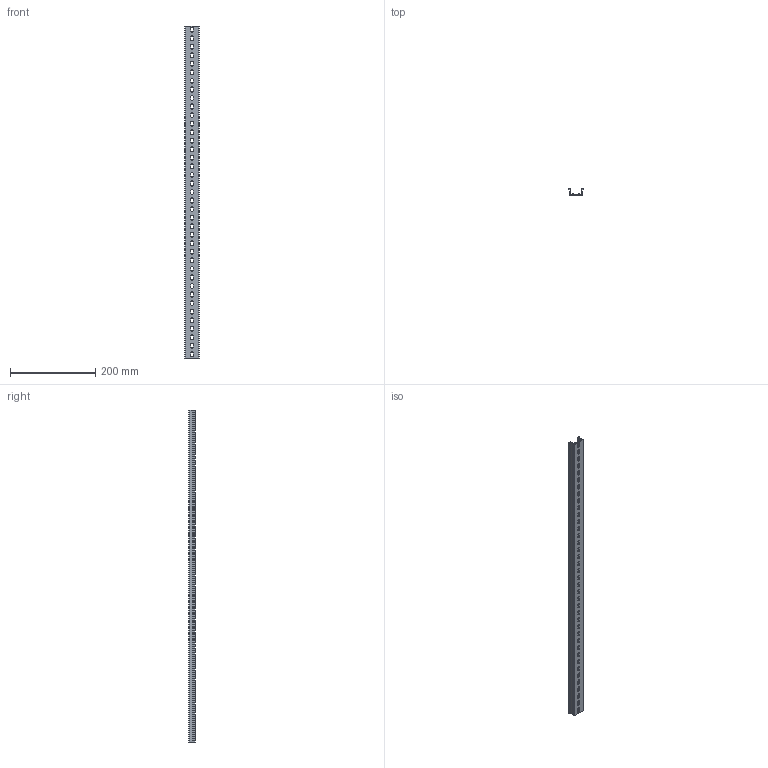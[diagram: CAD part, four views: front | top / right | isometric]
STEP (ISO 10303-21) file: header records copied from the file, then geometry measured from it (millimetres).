
FILE_DESCRIPTION(/* description */ (''),/* implementation_level */ '2;1');
FILE_NAME(/* name */ '22649-(TKB KD-39)HP 3D.stp',/* time_stamp */ '2024-12-05T14:22:36+09:00',/* author */ ('usercadg104'),/* organization */ (''),/* preprocessor_version */ 'ST-DEVELOPER v19.2',/* originating_system */ 'Autodesk Inventor 2023',/* authorisation */ '');
FILE_SCHEMA (('CONFIG_CONTROL_DESIGN'));
Length unit declared in the file: millimetre
Products named in the file (1): TKB KD-3(林)
Bounding box: 35 x 15 x 777 mm (x, y, z)
Volume: 90907.7 mm3; surface area: 104977.4 mm2
Topology: 1 solids, 1 shells, 196 faces, 582 edges, 388 vertices
Faces by surface type: plane 114, cylinder 82
Entity records: 6789 total; most frequent: CARTESIAN_POINT 1167, ORIENTED_EDGE 1164, DIRECTION 1140, EDGE_CURVE 582, LINE 418, VECTOR 418, VERTEX_POINT 388, AXIS2_PLACEMENT_3D 361
